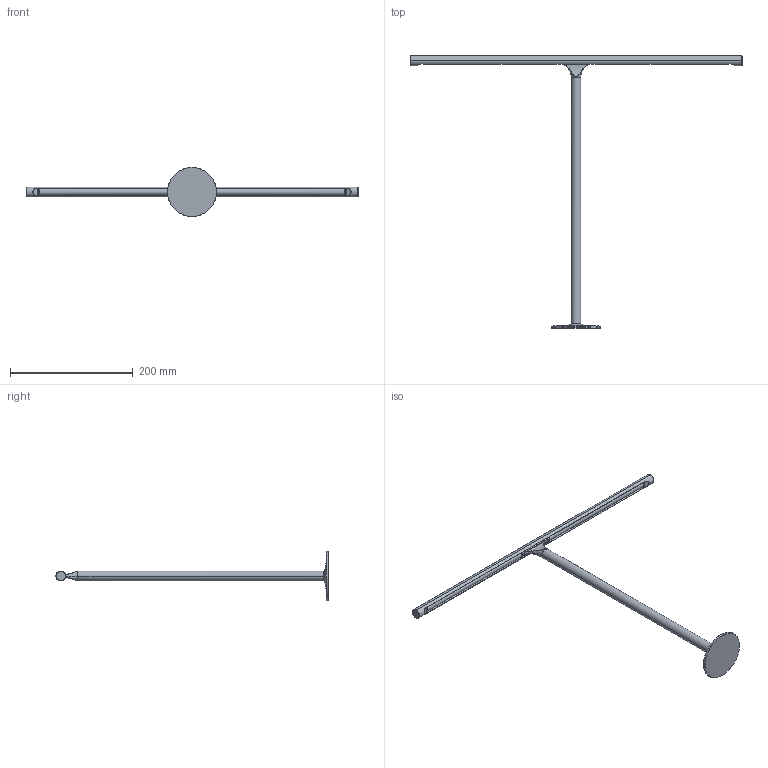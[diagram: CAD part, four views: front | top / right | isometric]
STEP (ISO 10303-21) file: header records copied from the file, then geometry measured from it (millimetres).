
FILE_DESCRIPTION (( 'STEP AP203' ), '1' );
FILE_NAME ('Gallery - Integrated 540 Bankers Lamp.STEP', '2024-03-25T03:04:27', ( '' ), ( '' ), 'SwSTEP 2.0', 'SolidWorks 2017', '' );
FILE_SCHEMA (( 'CONFIG_CONTROL_DESIGN' ));
Length unit declared in the file: millimetre
Products named in the file (1): Gallery - Integrated 540 Bankers Lamp
Bounding box: 540 x 443 x 80 mm (x, y, z)
Volume: 194271 mm3; surface area: 80017.6 mm2
Topology: 3 solids, 3 shells, 194 faces, 487 edges, 302 vertices
Faces by surface type: plane 80, cylinder 59, bspline 30, torus 17, cone 6, sphere 2
Entity records: 7705 total; most frequent: CARTESIAN_POINT 3186, ORIENTED_EDGE 966, DIRECTION 880, EDGE_CURVE 483, AXIS2_PLACEMENT_3D 322, VERTEX_POINT 300, LINE 236, VECTOR 236
